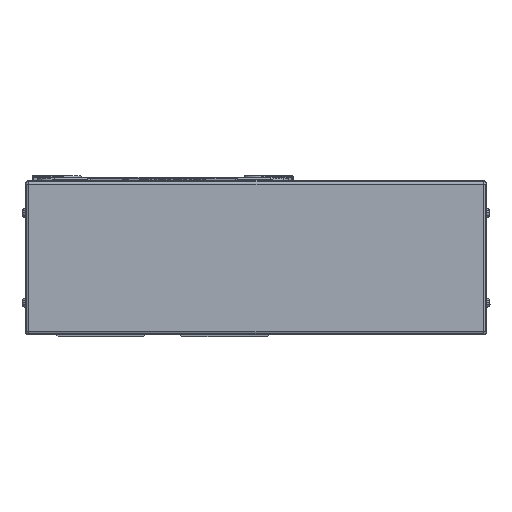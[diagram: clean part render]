
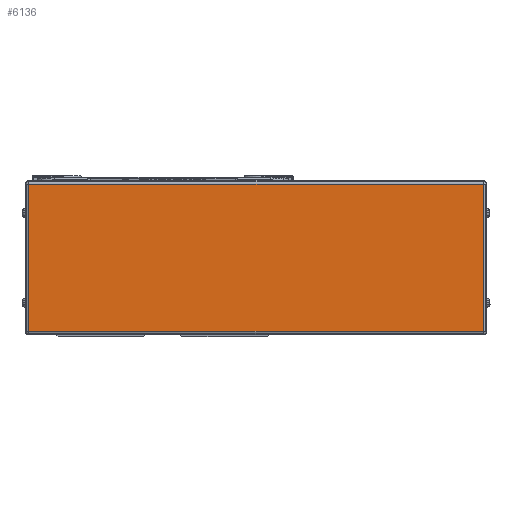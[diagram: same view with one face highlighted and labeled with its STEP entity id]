
A CAD part, left-side view. The second image highlights one B-rep face of the part: STEP entity #6136.
In plain terms, the highlighted planar face has unit normal (-1, 0, 0).
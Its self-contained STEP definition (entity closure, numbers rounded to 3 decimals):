
#6136=ADVANCED_FACE('',(#12571),#12572,.T.);
#12571=FACE_OUTER_BOUND('',#20655,.T.);
#12572=PLANE('',#20656);
#20655=EDGE_LOOP('',(#38093,#38094,#38095,#38096));
#20656=AXIS2_PLACEMENT_3D('',#38097,#38098,#38099);
#38093=ORIENTED_EDGE('',*,*,#44692,.F.);
#38094=ORIENTED_EDGE('',*,*,#42239,.F.);
#38095=ORIENTED_EDGE('',*,*,#46966,.F.);
#38096=ORIENTED_EDGE('',*,*,#45572,.F.);
#38097=CARTESIAN_POINT('',(-45.,-180.5,0.));
#38098=DIRECTION('',(-1.0,0.,0.));
#38099=DIRECTION('',(0.,0.,1.0));
#42239=EDGE_CURVE('',#51020,#51022,#51023,.T.);
#44692=EDGE_CURVE('',#51022,#48521,#54812,.T.);
#45572=EDGE_CURVE('',#48521,#55678,#56010,.T.);
#46966=EDGE_CURVE('',#55678,#51020,#57706,.T.);
#48521=VERTEX_POINT('',#59618);
#51020=VERTEX_POINT('',#63029);
#51022=VERTEX_POINT('',#63031);
#51023=LINE('',#63032,#63033);
#54812=LINE('',#68824,#68825);
#55678=VERTEX_POINT('',#70015);
#56010=LINE('',#70484,#70485);
#57706=LINE('',#72725,#72726);
#59618=CARTESIAN_POINT('',(-45.,-178.5,-41.));
#63029=CARTESIAN_POINT('',(-45.,74.5,41.));
#63031=CARTESIAN_POINT('',(-45.,-178.5,41.));
#63032=CARTESIAN_POINT('',(-45.,-180.5,41.));
#63033=VECTOR('',#76326,10.0);
#68824=CARTESIAN_POINT('',(-45.,-178.5,0.));
#68825=VECTOR('',#79532,10.0);
#70015=CARTESIAN_POINT('',(-45.,74.5,-41.));
#70484=CARTESIAN_POINT('',(-45.,-180.5,-41.));
#70485=VECTOR('',#80685,10.0);
#72725=CARTESIAN_POINT('',(-45.,74.5,0.));
#72726=VECTOR('',#82340,10.0);
#76326=DIRECTION('',(0.,-1.0,0.));
#79532=DIRECTION('',(0.,0.,-1.0));
#80685=DIRECTION('',(0.,1.0,0.));
#82340=DIRECTION('',(0.,0.,1.0));
